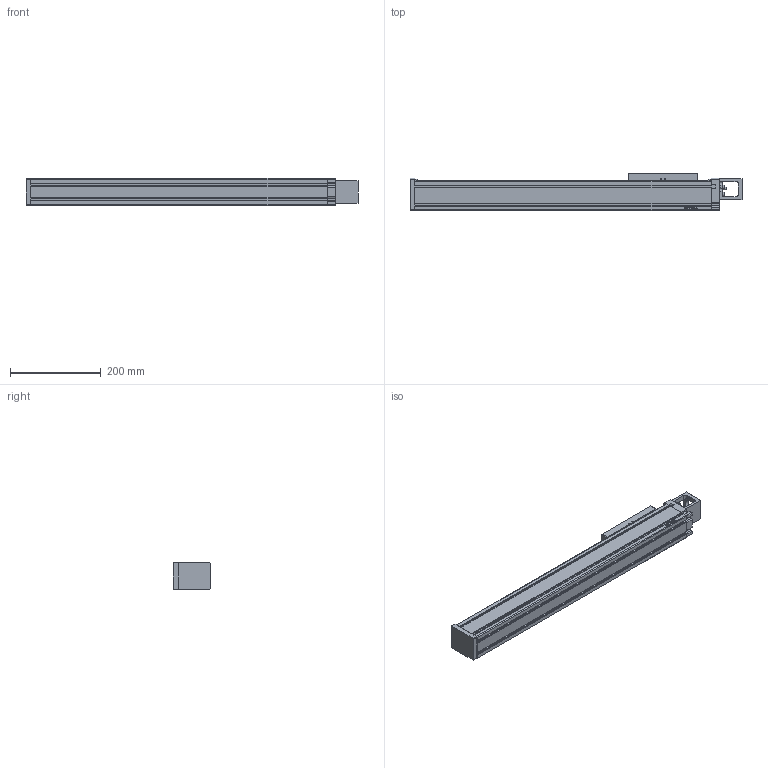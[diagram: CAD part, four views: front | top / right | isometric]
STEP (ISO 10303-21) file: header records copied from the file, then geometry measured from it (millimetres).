
FILE_DESCRIPTION(/* description */ (''),/* implementation_level */ '2;1');
FILE_NAME(/* name */ 'D:\混合母檔20191031\混和母檔\混和母檔\bin\Debug\Download\3D\KU60-5C-450AF0\KU60-5C-450AF0.stp',/* time_stamp */ '2019-11-04T16:32:01+08:00',/* author */ ('user'),/* organization */ (''),/* preprocessor_version */ 'ST-DEVELOPER v16.13',/* originating_system */ 'Autodesk Inventor 2018',/* authorisation */ '');
FILE_SCHEMA (('AUTOMOTIVE_DESIGN { 1 0 10303 214 3 1 1 }'));
Length unit declared in the file: millimetre
Products named in the file (3): KU60-5C-450AF0; KU060-F0-BP; KU60-SL
Assembly tree (2 placements, depth 2):
  KU60-5C-450AF0
    KU060-F0-BP
    KU60-SL
Bounding box: 731 x 82 x 60 mm (x, y, z)
Volume: 2687291.1 mm3; surface area: 282700.2 mm2
Topology: 2 solids, 14 shells, 756 faces, 2087 edges, 1370 vertices
Faces by surface type: plane 448, bspline 140, cylinder 133, cone 23, torus 12
Full cylindrical faces by diameter (mm): 2.459 x8, 3 x4, 3.242 x16, 3.5 x4, 4.5 x4, 5 x4, 5.5 x4, 5.7 x4, 6 x1, 8 x1, 8.5 x4, 30 x1, 35 x1
Entity records: 24568 total; most frequent: CARTESIAN_POINT 6539, ORIENTED_EDGE 3902, DIRECTION 3204, EDGE_CURVE 1951, VERTEX_POINT 1321, LINE 1288, VECTOR 1288, AXIS2_PLACEMENT_3D 958
